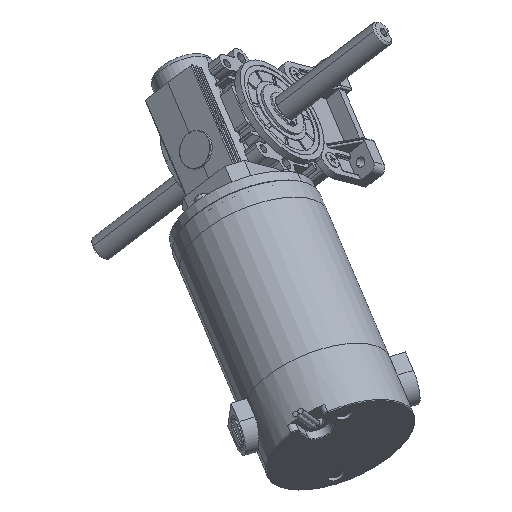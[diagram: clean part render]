
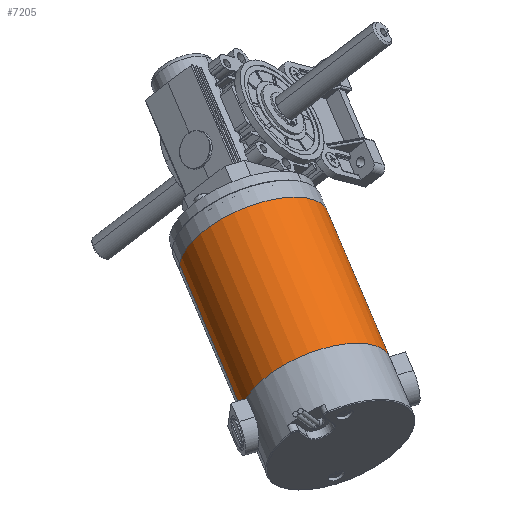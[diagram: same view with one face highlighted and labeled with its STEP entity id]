
A CAD part, top view. The second image highlights one B-rep face of the part: STEP entity #7205.
In plain terms, the highlighted cylindrical face has radius 41 mm (diameter 82 mm), a partial arc.
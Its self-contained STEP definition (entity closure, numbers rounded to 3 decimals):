
#16 = CARTESIAN_POINT ( 'NONE',  ( -106.919, -48.843, 94.311 ) ) ;
#821 = EDGE_CURVE ( 'NONE', #12961, #40127, #9741, .T. ) ;
#3929 = AXIS2_PLACEMENT_3D ( 'NONE', #4170, #26114, #7332 ) ;
#4170 = CARTESIAN_POINT ( 'NONE',  ( -36.636, -112.749, 124.944 ) ) ;
#5671 = DIRECTION ( 'NONE',  ( 0.933, 0.274, -0.231 ) ) ;
#5926 = LINE ( 'NONE', #16105, #37143 ) ;
#6079 = VERTEX_POINT ( 'NONE', #6940 ) ;
#6940 = CARTESIAN_POINT ( 'NONE',  ( -74.908, -123.994, 134.418 ) ) ;
#7205 = ADVANCED_FACE ( 'NONE', ( #13080 ), #25810, .T. ) ;
#7332 = DIRECTION ( 'NONE',  ( 0.933, 0.274, -0.231 ) ) ;
#8839 = DIRECTION ( 'NONE',  ( -0.933, -0.274, 0.231 ) ) ;
#9741 = CIRCLE ( 'NONE', #16256, 41. ) ;
#9758 = DIRECTION ( 'NONE',  ( 0.352, -0.826, 0.441 ) ) ;
#9810 = DIRECTION ( 'NONE',  ( 0.352, -0.826, 0.441 ) ) ;
#10043 = CARTESIAN_POINT ( 'NONE',  ( -68.646, -37.597, 84.836 ) ) ;
#11611 = DIRECTION ( 'NONE',  ( -0.352, 0.826, -0.441 ) ) ;
#12806 = ORIENTED_EDGE ( 'NONE', *, *, #35838, .T. ) ;
#12961 = VERTEX_POINT ( 'NONE', #13405 ) ;
#13080 = FACE_OUTER_BOUND ( 'NONE', #21270, .T. ) ;
#13152 = CARTESIAN_POINT ( 'NONE',  ( 1.637, -101.503, 115.469 ) ) ;
#13345 = CARTESIAN_POINT ( 'NONE',  ( -30.374, -26.352, 75.362 ) ) ;
#13405 = CARTESIAN_POINT ( 'NONE',  ( -106.919, -48.843, 94.311 ) ) ;
#16105 = CARTESIAN_POINT ( 'NONE',  ( -30.374, -26.352, 75.362 ) ) ;
#16256 = AXIS2_PLACEMENT_3D ( 'NONE', #21605, #11611, #5671 ) ;
#18271 = CIRCLE ( 'NONE', #3929, 41. ) ;
#20647 = ORIENTED_EDGE ( 'NONE', *, *, #821, .F. ) ;
#21270 = EDGE_LOOP ( 'NONE', ( #39958, #20647, #12806, #38921 ) ) ;
#21605 = CARTESIAN_POINT ( 'NONE',  ( -68.646, -37.597, 84.836 ) ) ;
#25810 = CYLINDRICAL_SURFACE ( 'NONE', #27630, 41. ) ;
#26114 = DIRECTION ( 'NONE',  ( -0.352, 0.826, -0.441 ) ) ;
#27630 = AXIS2_PLACEMENT_3D ( 'NONE', #10043, #9758, #8839 ) ;
#28108 = VERTEX_POINT ( 'NONE', #13152 ) ;
#28318 = DIRECTION ( 'NONE',  ( 0.352, -0.826, 0.441 ) ) ;
#28707 = EDGE_CURVE ( 'NONE', #6079, #28108, #18271, .T. ) ;
#29600 = VECTOR ( 'NONE', #28318, 1000. ) ;
#30526 = LINE ( 'NONE', #16, #29600 ) ;
#34007 = EDGE_CURVE ( 'NONE', #40127, #28108, #5926, .T. ) ;
#35838 = EDGE_CURVE ( 'NONE', #12961, #6079, #30526, .T. ) ;
#37143 = VECTOR ( 'NONE', #9810, 1000. ) ;
#38921 = ORIENTED_EDGE ( 'NONE', *, *, #28707, .T. ) ;
#39958 = ORIENTED_EDGE ( 'NONE', *, *, #34007, .F. ) ;
#40127 = VERTEX_POINT ( 'NONE', #13345 ) ;
